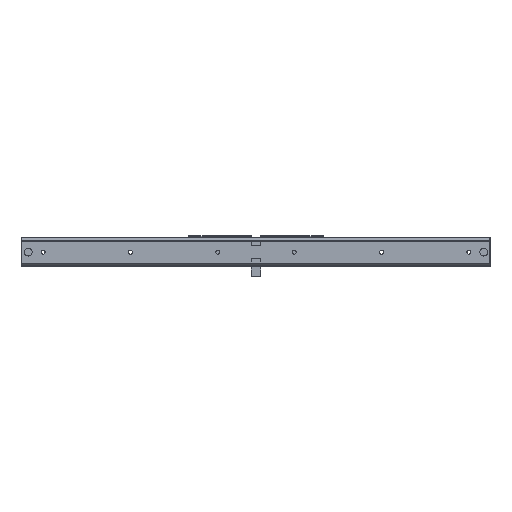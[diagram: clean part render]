
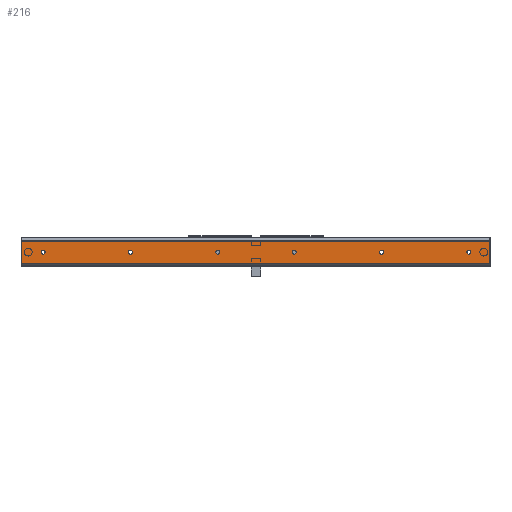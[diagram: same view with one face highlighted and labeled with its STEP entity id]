
A CAD part, left-side view. The second image highlights one B-rep face of the part: STEP entity #216.
In plain terms, the highlighted planar face has unit normal (-1, 0, 0).
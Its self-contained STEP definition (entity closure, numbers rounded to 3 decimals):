
#216 = ADVANCED_FACE( '', ( #544, #545, #546, #547, #548, #549, #550 ), #551, .T. );
#544 = FACE_BOUND( '', #1024, .T. );
#545 = FACE_BOUND( '', #1025, .T. );
#546 = FACE_BOUND( '', #1026, .T. );
#547 = FACE_BOUND( '', #1027, .T. );
#548 = FACE_BOUND( '', #1028, .T. );
#549 = FACE_BOUND( '', #1029, .T. );
#550 = FACE_OUTER_BOUND( '', #1030, .T. );
#551 = PLANE( '', #1031 );
#1024 = EDGE_LOOP( '', ( #2099, #2100 ) );
#1025 = EDGE_LOOP( '', ( #2101, #2102 ) );
#1026 = EDGE_LOOP( '', ( #2103, #2104 ) );
#1027 = EDGE_LOOP( '', ( #2105, #2106 ) );
#1028 = EDGE_LOOP( '', ( #2107, #2108 ) );
#1029 = EDGE_LOOP( '', ( #2109, #2110 ) );
#1030 = EDGE_LOOP( '', ( #2111, #2112, #2113, #2114 ) );
#1031 = AXIS2_PLACEMENT_3D( '', #2115, #2116, #2117 );
#2099 = ORIENTED_EDGE( '', *, *, #3169, .T. );
#2100 = ORIENTED_EDGE( '', *, *, #3209, .T. );
#2101 = ORIENTED_EDGE( '', *, *, #3165, .T. );
#2102 = ORIENTED_EDGE( '', *, *, #3211, .T. );
#2103 = ORIENTED_EDGE( '', *, *, #3161, .T. );
#2104 = ORIENTED_EDGE( '', *, *, #3213, .T. );
#2105 = ORIENTED_EDGE( '', *, *, #3157, .T. );
#2106 = ORIENTED_EDGE( '', *, *, #3215, .T. );
#2107 = ORIENTED_EDGE( '', *, *, #3153, .T. );
#2108 = ORIENTED_EDGE( '', *, *, #3217, .T. );
#2109 = ORIENTED_EDGE( '', *, *, #3149, .T. );
#2110 = ORIENTED_EDGE( '', *, *, #3219, .T. );
#2111 = ORIENTED_EDGE( '', *, *, #3410, .T. );
#2112 = ORIENTED_EDGE( '', *, *, #3411, .F. );
#2113 = ORIENTED_EDGE( '', *, *, #3412, .T. );
#2114 = ORIENTED_EDGE( '', *, *, #3413, .T. );
#2115 = CARTESIAN_POINT( '', ( 0., 0., 15.18 ) );
#2116 = DIRECTION( '', ( -1., 0., 0. ) );
#2117 = DIRECTION( '', ( 0., 0., 1. ) );
#3149 = EDGE_CURVE( '', #3763, #3760, #3764, .T. );
#3153 = EDGE_CURVE( '', #3771, #3768, #3772, .T. );
#3157 = EDGE_CURVE( '', #3779, #3776, #3780, .T. );
#3161 = EDGE_CURVE( '', #3787, #3784, #3788, .T. );
#3165 = EDGE_CURVE( '', #3795, #3792, #3796, .T. );
#3169 = EDGE_CURVE( '', #3803, #3800, #3804, .T. );
#3209 = EDGE_CURVE( '', #3800, #3803, #3869, .T. );
#3211 = EDGE_CURVE( '', #3792, #3795, #3871, .T. );
#3213 = EDGE_CURVE( '', #3784, #3787, #3873, .T. );
#3215 = EDGE_CURVE( '', #3776, #3779, #3875, .T. );
#3217 = EDGE_CURVE( '', #3768, #3771, #3877, .T. );
#3219 = EDGE_CURVE( '', #3760, #3763, #3879, .T. );
#3410 = EDGE_CURVE( '', #4190, #4191, #4192, .T. );
#3411 = EDGE_CURVE( '', #4193, #4191, #4194, .T. );
#3412 = EDGE_CURVE( '', #4193, #4195, #4196, .T. );
#3413 = EDGE_CURVE( '', #4195, #4190, #4197, .T. );
#3760 = VERTEX_POINT( '', #4760 );
#3763 = VERTEX_POINT( '', #4764 );
#3764 = CIRCLE( '', #4765, 2.55 );
#3768 = VERTEX_POINT( '', #4770 );
#3771 = VERTEX_POINT( '', #4774 );
#3772 = CIRCLE( '', #4775, 2.55 );
#3776 = VERTEX_POINT( '', #4780 );
#3779 = VERTEX_POINT( '', #4784 );
#3780 = CIRCLE( '', #4785, 2.55 );
#3784 = VERTEX_POINT( '', #4790 );
#3787 = VERTEX_POINT( '', #4794 );
#3788 = CIRCLE( '', #4795, 2.55 );
#3792 = VERTEX_POINT( '', #4800 );
#3795 = VERTEX_POINT( '', #4804 );
#3796 = CIRCLE( '', #4805, 2.55 );
#3800 = VERTEX_POINT( '', #4810 );
#3803 = VERTEX_POINT( '', #4814 );
#3804 = CIRCLE( '', #4815, 2.55 );
#3869 = CIRCLE( '', #4893, 2.55 );
#3871 = CIRCLE( '', #4895, 2.55 );
#3873 = CIRCLE( '', #4897, 2.55 );
#3875 = CIRCLE( '', #4899, 2.55 );
#3877 = CIRCLE( '', #4901, 2.55 );
#3879 = CIRCLE( '', #4903, 2.55 );
#4190 = VERTEX_POINT( '', #5396 );
#4191 = VERTEX_POINT( '', #5397 );
#4192 = LINE( '', #5398, #5399 );
#4193 = VERTEX_POINT( '', #5400 );
#4194 = LINE( '', #5401, #5402 );
#4195 = VERTEX_POINT( '', #5403 );
#4196 = LINE( '', #5404, #5405 );
#4197 = LINE( '', #5406, #5407 );
#4760 = CARTESIAN_POINT( '', ( 0., 27., -2.55 ) );
#4764 = CARTESIAN_POINT( '', ( 0., 27., 2.55 ) );
#4765 = AXIS2_PLACEMENT_3D( '', #6221, #6222, #6223 );
#4770 = CARTESIAN_POINT( '', ( 0., 139., -2.55 ) );
#4774 = CARTESIAN_POINT( '', ( 0., 139., 2.55 ) );
#4775 = AXIS2_PLACEMENT_3D( '', #6229, #6230, #6231 );
#4780 = CARTESIAN_POINT( '', ( 0., 251., -2.55 ) );
#4784 = CARTESIAN_POINT( '', ( 0., 251., 2.55 ) );
#4785 = AXIS2_PLACEMENT_3D( '', #6237, #6238, #6239 );
#4790 = CARTESIAN_POINT( '', ( 0., 573., -2.55 ) );
#4794 = CARTESIAN_POINT( '', ( 0., 573., 2.55 ) );
#4795 = AXIS2_PLACEMENT_3D( '', #6245, #6246, #6247 );
#4800 = CARTESIAN_POINT( '', ( 0., 461., -2.55 ) );
#4804 = CARTESIAN_POINT( '', ( 0., 461., 2.55 ) );
#4805 = AXIS2_PLACEMENT_3D( '', #6253, #6254, #6255 );
#4810 = CARTESIAN_POINT( '', ( 0., 349., -2.55 ) );
#4814 = CARTESIAN_POINT( '', ( 0., 349., 2.55 ) );
#4815 = AXIS2_PLACEMENT_3D( '', #6261, #6262, #6263 );
#4893 = AXIS2_PLACEMENT_3D( '', #6355, #6356, #6357 );
#4895 = AXIS2_PLACEMENT_3D( '', #6361, #6362, #6363 );
#4897 = AXIS2_PLACEMENT_3D( '', #6367, #6368, #6369 );
#4899 = AXIS2_PLACEMENT_3D( '', #6373, #6374, #6375 );
#4901 = AXIS2_PLACEMENT_3D( '', #6379, #6380, #6381 );
#4903 = AXIS2_PLACEMENT_3D( '', #6385, #6386, #6387 );
#5396 = CARTESIAN_POINT( '', ( 0., 600., 15.18 ) );
#5397 = CARTESIAN_POINT( '', ( 0., 600., -15.18 ) );
#5398 = CARTESIAN_POINT( '', ( 0., 600., -15.18 ) );
#5399 = VECTOR( '', #6594, 1. );
#5400 = CARTESIAN_POINT( '', ( 0., 0., -15.18 ) );
#5401 = CARTESIAN_POINT( '', ( 0., 0., -15.18 ) );
#5402 = VECTOR( '', #6595, 1. );
#5403 = CARTESIAN_POINT( '', ( 0., 0., 15.18 ) );
#5404 = CARTESIAN_POINT( '', ( 0., 0., -15.18 ) );
#5405 = VECTOR( '', #6596, 1. );
#5406 = CARTESIAN_POINT( '', ( 0., 0., 15.18 ) );
#5407 = VECTOR( '', #6597, 1. );
#6221 = CARTESIAN_POINT( '', ( 0., 27., 0. ) );
#6222 = DIRECTION( '', ( 1., 0., 0. ) );
#6223 = DIRECTION( '', ( 0., 0., -1. ) );
#6229 = CARTESIAN_POINT( '', ( 0., 139., 0. ) );
#6230 = DIRECTION( '', ( 1., 0., 0. ) );
#6231 = DIRECTION( '', ( 0., 0., -1. ) );
#6237 = CARTESIAN_POINT( '', ( 0., 251., 0. ) );
#6238 = DIRECTION( '', ( 1., 0., 0. ) );
#6239 = DIRECTION( '', ( 0., 0., -1. ) );
#6245 = CARTESIAN_POINT( '', ( 0., 573., 0. ) );
#6246 = DIRECTION( '', ( 1., 0., 0. ) );
#6247 = DIRECTION( '', ( 0., 0., -1. ) );
#6253 = CARTESIAN_POINT( '', ( 0., 461., 0. ) );
#6254 = DIRECTION( '', ( 1., 0., 0. ) );
#6255 = DIRECTION( '', ( 0., 0., -1. ) );
#6261 = CARTESIAN_POINT( '', ( 0., 349., 0. ) );
#6262 = DIRECTION( '', ( 1., 0., 0. ) );
#6263 = DIRECTION( '', ( 0., 0., -1. ) );
#6355 = CARTESIAN_POINT( '', ( 0., 349., 0. ) );
#6356 = DIRECTION( '', ( 1., 0., 0. ) );
#6357 = DIRECTION( '', ( 0., 0., -1. ) );
#6361 = CARTESIAN_POINT( '', ( 0., 461., 0. ) );
#6362 = DIRECTION( '', ( 1., 0., 0. ) );
#6363 = DIRECTION( '', ( 0., 0., -1. ) );
#6367 = CARTESIAN_POINT( '', ( 0., 573., 0. ) );
#6368 = DIRECTION( '', ( 1., 0., 0. ) );
#6369 = DIRECTION( '', ( 0., 0., -1. ) );
#6373 = CARTESIAN_POINT( '', ( 0., 251., 0. ) );
#6374 = DIRECTION( '', ( 1., 0., 0. ) );
#6375 = DIRECTION( '', ( 0., 0., -1. ) );
#6379 = CARTESIAN_POINT( '', ( 0., 139., 0. ) );
#6380 = DIRECTION( '', ( 1., 0., 0. ) );
#6381 = DIRECTION( '', ( 0., 0., -1. ) );
#6385 = CARTESIAN_POINT( '', ( 0., 27., 0. ) );
#6386 = DIRECTION( '', ( 1., 0., 0. ) );
#6387 = DIRECTION( '', ( 0., 0., -1. ) );
#6594 = DIRECTION( '', ( 0., 0., -1. ) );
#6595 = DIRECTION( '', ( 0., 1., 0. ) );
#6596 = DIRECTION( '', ( 0., 0., 1. ) );
#6597 = DIRECTION( '', ( 0., 1., 0. ) );
